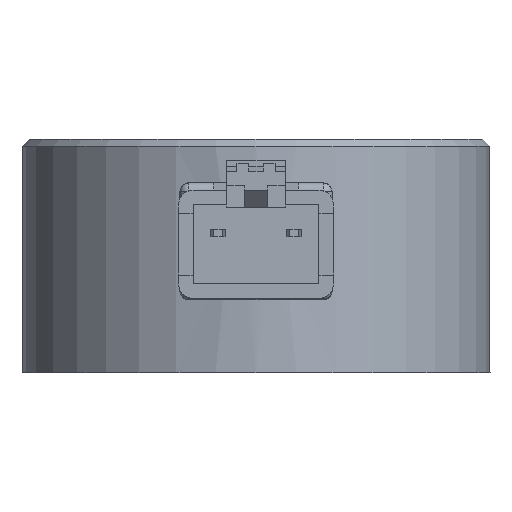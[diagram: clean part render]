
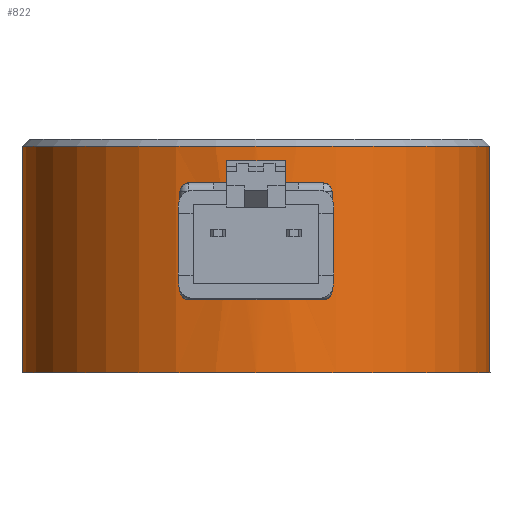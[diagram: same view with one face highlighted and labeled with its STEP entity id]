
A CAD part, front view. The second image highlights one B-rep face of the part: STEP entity #822.
In plain terms, the highlighted cylindrical face has radius 16 mm (diameter 32 mm), a full revolution.
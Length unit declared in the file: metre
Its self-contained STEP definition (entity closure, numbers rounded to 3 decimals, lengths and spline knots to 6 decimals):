
#822=ADVANCED_FACE('48:68449',(#2241,#2242,#2243),#2244,.T.);
#2241=FACE_BOUND('',#4069,.T.);
#2242=FACE_OUTER_BOUND('',#4070,.T.);
#2243=FACE_OUTER_BOUND('',#4071,.T.);
#2244=CYLINDRICAL_SURFACE('',#4072,0.016);
#4069=EDGE_LOOP('',(#7198));
#4070=EDGE_LOOP('',(#7199));
#4071=EDGE_LOOP('',(#7200));
#4072=AXIS2_PLACEMENT_3D('',#7201,#7202,#7203);
#7198=ORIENTED_EDGE('',*,*,#9268,.F.);
#7199=ORIENTED_EDGE('',*,*,#9296,.F.);
#7200=ORIENTED_EDGE('',*,*,#9314,.T.);
#7201=CARTESIAN_POINT('',(0.0,0.003877,-0.000819));
#7202=DIRECTION('',(0.0,0.,1.0));
#7203=DIRECTION('',(0.,1.0,0.));
#9268=EDGE_CURVE('97:17260',#9625,#9625,#9626,.T.);
#9296=EDGE_CURVE('48:68536',#9670,#9670,#9671,.T.);
#9314=EDGE_CURVE('48:68638',#9697,#9697,#9698,.T.);
#9625=VERTEX_POINT('',#11205);
#9626=B_SPLINE_CURVE_WITH_KNOTS('',3,(#11206,#11207,#11208,#11209,#11210,#11211,#11212,#11213,#11214,#11215,#11216,#11217,#11218,#11219,#11220,#11221,#11222,#11223,#11224,#11225,#11226,#11227,#11228,#11229,#11230,#11231,#11232,#11233,#11234,#11235,#11236,#11237,#11238,#11239,#11240,#11241,#11242,#11243,#11244,#11245,#11246,#11247,#11248,#11249,#11250,#11251,#11252,#11253,#11254,#11255,#11256,#11257,#11258,#11259),.UNSPECIFIED.,.T.,.F.,(2,2,2,2,2,2,2,2,2,2,2,2,2,2,2,2,2,2,2,2,2,2,2,2,2,2,2,2,2),(-0.000763,0.0,0.000381,0.000763,0.001144,0.001525,0.002288,0.003051,0.003432,0.003813,0.004195,0.004576,0.004957,0.005339,0.00572,0.006102,0.006864,0.007627,0.008008,0.00839,0.008771,0.009152,0.009534,0.009915,0.010296,0.010678,0.01144,0.012203,0.012584),.UNSPECIFIED.);
#9670=VERTEX_POINT('',#11303);
#9671=CIRCLE('',#11304,0.016);
#9697=VERTEX_POINT('',#11330);
#9698=CIRCLE('',#11331,0.016);
#11205=CARTESIAN_POINT('',(-0.00195,-0.012003,0.0105));
#11206=CARTESIAN_POINT('',(-0.00195,-0.012003,0.010758));
#11207=CARTESIAN_POINT('',(-0.00195,-0.012003,0.010371));
#11208=CARTESIAN_POINT('',(-0.001937,-0.012005,0.010244));
#11209=CARTESIAN_POINT('',(-0.001888,-0.012011,0.009995));
#11210=CARTESIAN_POINT('',(-0.00185,-0.012015,0.009871));
#11211=CARTESIAN_POINT('',(-0.001752,-0.012026,0.009635));
#11212=CARTESIAN_POINT('',(-0.001692,-0.012033,0.009523));
#11213=CARTESIAN_POINT('',(-0.001551,-0.012047,0.009311));
#11214=CARTESIAN_POINT('',(-0.001469,-0.012055,0.009211));
#11215=CARTESIAN_POINT('',(-0.001199,-0.012079,0.008941));
#11216=CARTESIAN_POINT('',(-0.000982,-0.012094,0.008796));
#11217=CARTESIAN_POINT('',(-0.000512,-0.012116,0.008601));
#11218=CARTESIAN_POINT('',(-0.000256,-0.012123,0.00855));
#11219=CARTESIAN_POINT('',(0.000126,-0.012123,0.00855));
#11220=CARTESIAN_POINT('',(0.000256,-0.012121,0.008563));
#11221=CARTESIAN_POINT('',(0.000506,-0.012115,0.008612));
#11222=CARTESIAN_POINT('',(0.000627,-0.012111,0.008649));
#11223=CARTESIAN_POINT('',(0.000864,-0.0121,0.008747));
#11224=CARTESIAN_POINT('',(0.000978,-0.012093,0.008808));
#11225=CARTESIAN_POINT('',(0.001189,-0.012079,0.008949));
#11226=CARTESIAN_POINT('',(0.001287,-0.012071,0.00903));
#11227=CARTESIAN_POINT('',(0.001469,-0.012055,0.009212));
#11228=CARTESIAN_POINT('',(0.00155,-0.012047,0.00931));
#11229=CARTESIAN_POINT('',(0.001691,-0.012033,0.009521));
#11230=CARTESIAN_POINT('',(0.001752,-0.012026,0.009635));
#11231=CARTESIAN_POINT('',(0.00185,-0.012015,0.009871));
#11232=CARTESIAN_POINT('',(0.001887,-0.012011,0.009993));
#11233=CARTESIAN_POINT('',(0.001937,-0.012005,0.010243));
#11234=CARTESIAN_POINT('',(0.00195,-0.012003,0.010372));
#11235=CARTESIAN_POINT('',(0.00195,-0.012003,0.010754));
#11236=CARTESIAN_POINT('',(0.001899,-0.01201,0.011011));
#11237=CARTESIAN_POINT('',(0.001705,-0.012032,0.01148));
#11238=CARTESIAN_POINT('',(0.00156,-0.012047,0.011698));
#11239=CARTESIAN_POINT('',(0.00129,-0.012071,0.011968));
#11240=CARTESIAN_POINT('',(0.00119,-0.012079,0.01205));
#11241=CARTESIAN_POINT('',(0.000979,-0.012093,0.012192));
#11242=CARTESIAN_POINT('',(0.000867,-0.012099,0.012251));
#11243=CARTESIAN_POINT('',(0.000631,-0.012111,0.01235));
#11244=CARTESIAN_POINT('',(0.000507,-0.012115,0.012387));
#11245=CARTESIAN_POINT('',(0.000257,-0.012121,0.012437));
#11246=CARTESIAN_POINT('',(0.000131,-0.012123,0.01245));
#11247=CARTESIAN_POINT('',(-0.000127,-0.012123,0.01245));
#11248=CARTESIAN_POINT('',(-0.000254,-0.012121,0.012438));
#11249=CARTESIAN_POINT('',(-0.000503,-0.012115,0.012388));
#11250=CARTESIAN_POINT('',(-0.000627,-0.012111,0.012351));
#11251=CARTESIAN_POINT('',(-0.000864,-0.0121,0.012253));
#11252=CARTESIAN_POINT('',(-0.000976,-0.012093,0.012193));
#11253=CARTESIAN_POINT('',(-0.001188,-0.012079,0.012052));
#11254=CARTESIAN_POINT('',(-0.001288,-0.012071,0.01197));
#11255=CARTESIAN_POINT('',(-0.001558,-0.012048,0.0117));
#11256=CARTESIAN_POINT('',(-0.001703,-0.012032,0.011483));
#11257=CARTESIAN_POINT('',(-0.001898,-0.01201,0.011014));
#11258=CARTESIAN_POINT('',(-0.00195,-0.012003,0.010758));
#11259=CARTESIAN_POINT('',(-0.00195,-0.012003,0.010371));
#11303=CARTESIAN_POINT('',(0.,0.019877,0.017));
#11304=AXIS2_PLACEMENT_3D('',#11625,#11626,#11627);
#11330=CARTESIAN_POINT('',(0.,0.019877,0.0015));
#11331=AXIS2_PLACEMENT_3D('',#11652,#11653,#11654);
#11625=CARTESIAN_POINT('',(0.0,0.003877,0.017));
#11626=DIRECTION('',(0.0,0.,1.0));
#11627=DIRECTION('',(0.,1.0,0.));
#11652=CARTESIAN_POINT('',(0.0,0.003877,0.0015));
#11653=DIRECTION('',(0.,0.,1.0));
#11654=DIRECTION('',(0.,1.0,0.));
